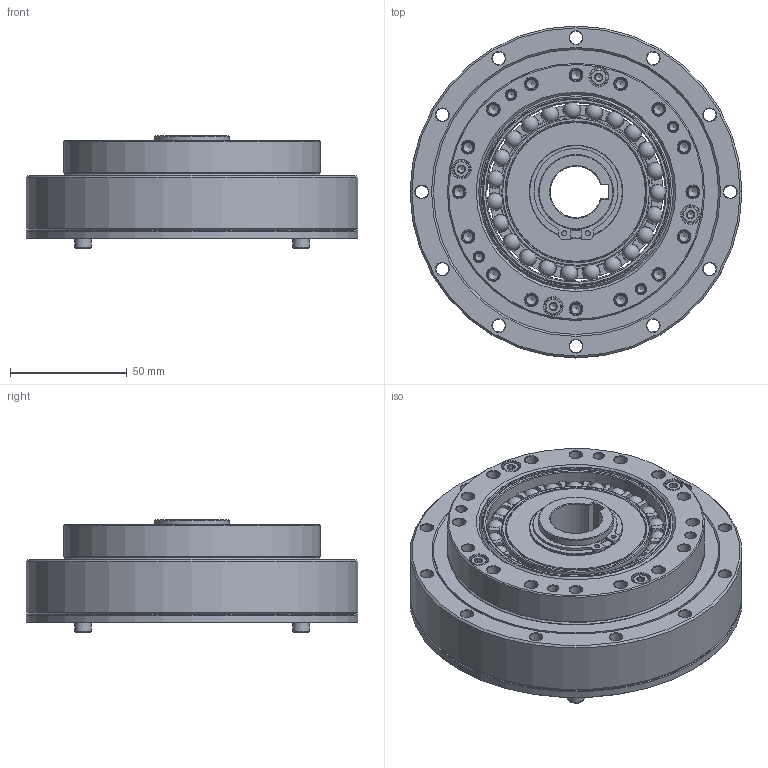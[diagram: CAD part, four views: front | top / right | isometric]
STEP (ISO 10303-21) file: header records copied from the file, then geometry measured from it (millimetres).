
FILE_DESCRIPTION(/* description */ (''),/* implementation_level */ '2;1');
FILE_NAME(/* name */ 'LHG-32-XX-U-II-φ22.stp',/* time_stamp */ '2023-07-08T16:08:31+08:00',/* author */ (''),/* organization */ (''),/* preprocessor_version */ 'ST-DEVELOPER v16.7',/* originating_system */ 'SIEMENS PLM Software NX 12.0',/* authorisation */ '');
FILE_SCHEMA (('AUTOMOTIVE_DESIGN { 1 0 10303 214 3 1 1 1 }'));
Length unit declared in the file: millimetre
Products named in the file (17): EB608012-32KC-46; EB608012-32KE-01; TC-110x122x6; O-120x1.5; O-90x1; GB-T70.1-2000,M4x10; GB-T70.1-2000,M4x16; 铜垫圈32.5x40x1; 轴用弹性挡圈φ32; CS-32-XX-03-A; CS-32-00-02-A; CSG-32-00-01-A-K22; 柔轮LHT-32; 刚轮LHT-32; EB608012-32KE; 交叉轴承LHT-32; LHG-32-XX-U-II-φ22
Assembly tree (22 placements, depth 3):
  LHG-32-XX-U-II-φ22
    交叉轴承LHT-32
      TC-110x122x6
    刚轮LHT-32
    柔轮LHT-32
    EB608012-32KE
      EB608012-32KE-01
      EB608012-32KC-46
    CSG-32-00-01-A-K22
    CS-32-00-02-A
    CS-32-XX-03-A
    轴用弹性挡圈φ32
    铜垫圈32.5x40x1
    GB-T70.1-2000,M4x16  x4
    GB-T70.1-2000,M4x10  x4
    O-90x1
    O-120x1.5
Bounding box: 142 x 142 x 48 mm (x, y, z)
Volume: 333202.8 mm3; surface area: 189371.4 mm2
Topology: 46 solids, 46 shells, 956 faces, 2282 edges, 1401 vertices
Faces by surface type: plane 320, cone 288, cylinder 232, torus 91, sphere 23, revolution 2
Full cylindrical faces by diameter (mm): 2.133 x2, 3.3 x16, 3.838 x8, 4.2 x16, 4.5 x16, 5.5 x40, 7 x8, 8 x4, 30.3 x1, 32 x2, 32.5 x3, 40 x1, 53 x2, 60 x2, 63.6 x2, 65.5 x1, 69.5 x1, 74.3 x1, 76.45 x2, 80 x2, 80.92 x1, 82.91 x1, 83.247 x1, 86 x1, 88 x2, 88.5 x1, 90 x1, 92.6 x1, 101 x1, 109.5 x1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
Entity records: 22502 total; most frequent: CARTESIAN_POINT 5050, DIRECTION 3722, ORIENTED_EDGE 2758, AXIS2_PLACEMENT_3D 1665, EDGE_CURVE 1379, EDGE_LOOP 1328, VERTEX_POINT 1118, FACE_BOUND 1065
